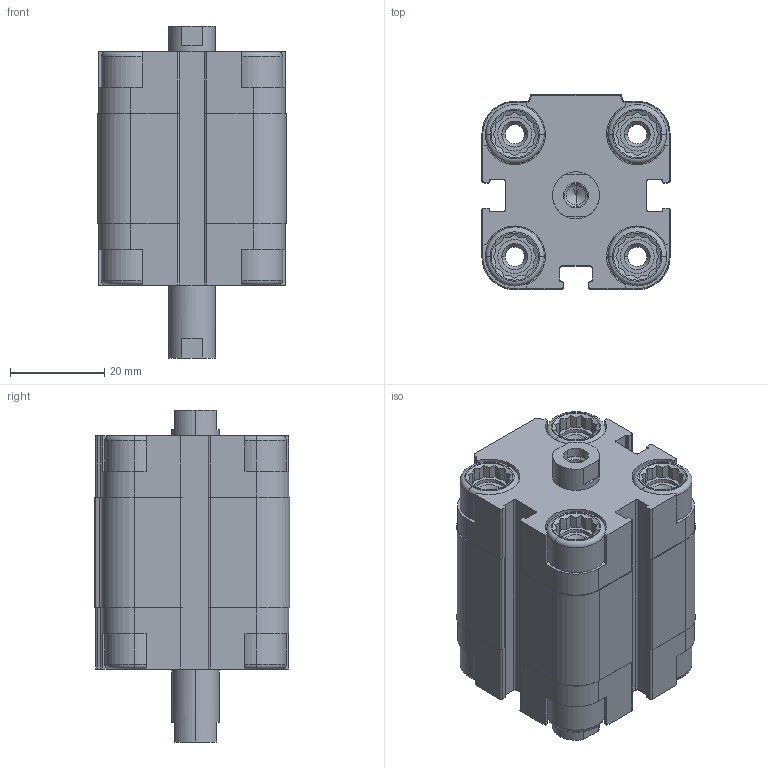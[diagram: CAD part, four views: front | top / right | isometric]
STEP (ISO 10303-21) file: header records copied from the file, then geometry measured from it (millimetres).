
FILE_DESCRIPTION (( 'STEP AP203' ), '1' );
FILE_NAME ('CDVU25-10F-P.STEP', '2020-07-24T18:09:04', ( '' ), ( '' ), 'SwSTEP 2.0', 'SolidWorks 2019', '' );
FILE_SCHEMA (( 'CONFIG_CONTROL_DESIGN' ));
Length unit declared in the file: millimetre
Products named in the file (1): CDVU25-10F-P
Bounding box: 40 x 41.5 x 70.5 mm (x, y, z)
Volume: 62919 mm3; surface area: 25659 mm2
Topology: 2 solids, 2 shells, 596 faces, 1574 edges, 1016 vertices
Faces by surface type: plane 356, cylinder 176, cone 48, torus 16
Entity records: 18577 total; most frequent: CARTESIAN_POINT 3755, ORIENTED_EDGE 3132, DIRECTION 3000, EDGE_CURVE 1566, AXIS2_PLACEMENT_3D 1029, VERTEX_POINT 1016, LINE 942, VECTOR 942
